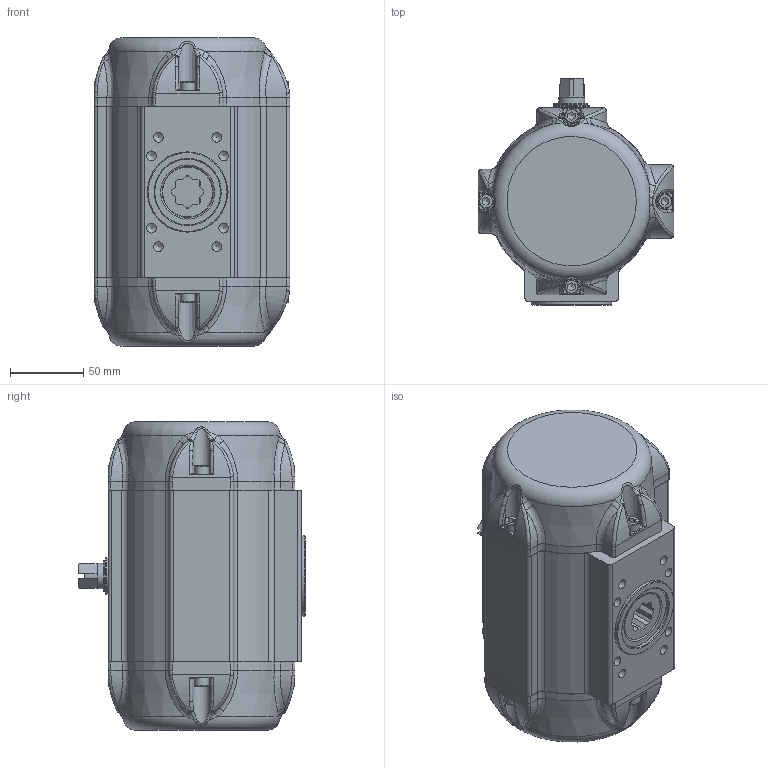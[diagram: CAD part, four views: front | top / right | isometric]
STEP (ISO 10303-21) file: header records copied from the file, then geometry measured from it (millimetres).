
FILE_DESCRIPTION((''),'2;1');
FILE_NAME('Z:\DOKUMENTATION ANTRIEBSPROGRAMM\Antriebe (neu)\BR16_SAD_SAF_90°\STEP-Dateien\SAD SAF 90° Standard\20\SAF_20_BR16.stp','2017-07-04T13:45:59',('vmi'),(''),'Autodesk Inventor 2013','Autodesk Inventor 2013','');
FILE_SCHEMA(('AUTOMOTIVE_DESIGN { 1 0 10303 214 1 1 1 1 }'));
Length unit declared in the file: millimetre
Products named in the file (1): ENG-084368_Shrinkwrap_1
Bounding box: 134 x 155 x 211.5 mm (x, y, z)
Surface area: 133385.2 mm2 (no closed solid volume)
Topology: 0 solids, 27 shells, 489 faces, 1564 edges, 1064 vertices
Faces by surface type: plane 154, cylinder 146, bspline 103, cone 39, torus 35, sphere 12
Full cylindrical faces by diameter (mm): 2 x2, 4.134 x8, 4.917 x1, 6.647 x8, 10 x8, 11.445 x2, 16.7 x1, 17 x1, 17.8 x1, 25 x2, 45 x1, 55 x1
Entity records: 21344 total; most frequent: CARTESIAN_POINT 8457, ORIENTED_EDGE 2422, DIRECTION 2274, EDGE_CURVE 1457, VERTEX_POINT 1031, AXIS2_PLACEMENT_3D 877, EDGE_LOOP 604, VECTOR 520
